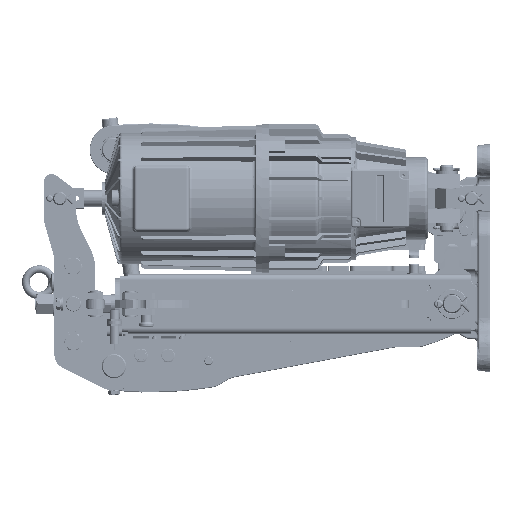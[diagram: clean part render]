
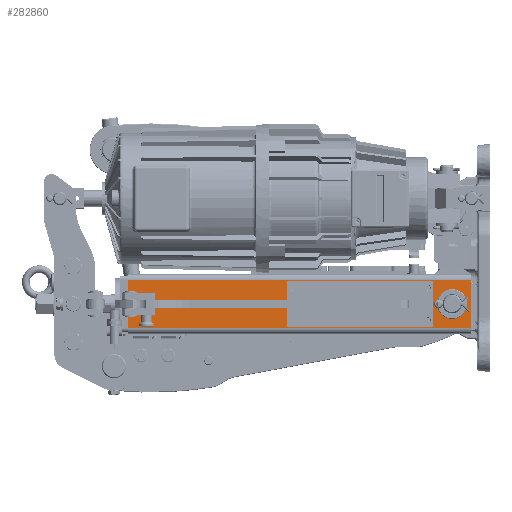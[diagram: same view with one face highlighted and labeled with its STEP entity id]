
A CAD part, left-side view. The second image highlights one B-rep face of the part: STEP entity #282860.
In plain terms, the highlighted planar face has unit normal (-1, 0, 0).
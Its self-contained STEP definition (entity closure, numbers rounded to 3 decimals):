
#114415=DIRECTION('',(0.,0.,-1.));
#114416=VECTOR('',#114415,90.);
#114417=CARTESIAN_POINT('',(-240.,35.,-40.));
#114418=LINE('',#114417,#114416);
#114422=DIRECTION('',(0.,-1.,0.));
#114423=VECTOR('',#114422,50.);
#114424=CARTESIAN_POINT('',(-240.,670.,-105.));
#114425=LINE('',#114424,#114423);
#114429=CARTESIAN_POINT('',(-240.,70.,-85.));
#114430=DIRECTION('',(-1.,0.,0.));
#114431=DIRECTION('',(0.,0.,-1.));
#114432=AXIS2_PLACEMENT_3D('',#114429,#114430,#114431);
#114437=CARTESIAN_POINT('',(-240.,70.,-85.));
#114438=DIRECTION('',(-1.,0.,0.));
#114439=DIRECTION('',(0.,0.,1.));
#114440=AXIS2_PLACEMENT_3D('',#114437,#114438,#114439);
#114445=DIRECTION('',(0.,0.,-1.));
#114446=VECTOR('',#114445,85.);
#114447=CARTESIAN_POINT('',(-240.,375.,-42.5));
#114448=LINE('',#114447,#114446);
#114452=DIRECTION('',(0.,-1.,0.));
#114453=VECTOR('',#114452,270.);
#114454=CARTESIAN_POINT('',(-240.,375.,-127.5));
#114455=LINE('',#114454,#114453);
#114459=DIRECTION('',(0.,0.,1.));
#114460=VECTOR('',#114459,85.);
#114461=CARTESIAN_POINT('',(-240.,105.,-127.5));
#114462=LINE('',#114461,#114460);
#114466=DIRECTION('',(0.,1.,0.));
#114467=VECTOR('',#114466,270.);
#114468=CARTESIAN_POINT('',(-240.,105.,-42.5));
#114469=LINE('',#114468,#114467);
#114487=DIRECTION('',(0.,-1.,0.));
#114488=VECTOR('',#114487,50.);
#114489=CARTESIAN_POINT('',(-240.,670.,-65.));
#114490=LINE('',#114489,#114488);
#114510=DIRECTION('',(0.,0.,-1.));
#114511=VECTOR('',#114510,40.);
#114512=CARTESIAN_POINT('',(-240.,620.,-65.));
#114513=LINE('',#114512,#114511);
#114678=DIRECTION('',(0.,0.,-1.));
#114679=VECTOR('',#114678,25.);
#114680=CARTESIAN_POINT('',(-240.,670.,-40.));
#114681=LINE('',#114680,#114679);
#114692=DIRECTION('',(0.,0.,-1.));
#114693=VECTOR('',#114692,25.);
#114694=CARTESIAN_POINT('',(-240.,670.,-105.));
#114695=LINE('',#114694,#114693);
#114888=DIRECTION('',(0.,-1.,0.));
#114889=VECTOR('',#114888,635.);
#114890=CARTESIAN_POINT('',(-240.,670.,-130.));
#114891=LINE('',#114890,#114889);
#114966=DIRECTION('',(0.,1.,0.));
#114967=VECTOR('',#114966,635.);
#114968=CARTESIAN_POINT('',(-240.,35.,-40.));
#114969=LINE('',#114968,#114967);
#167671=CARTESIAN_POINT('',(-240.,70.,-112.5));
#167672=CARTESIAN_POINT('',(-240.,70.,-57.5));
#167673=VERTEX_POINT('',#167671);
#167674=VERTEX_POINT('',#167672);
#167677=CARTESIAN_POINT('',(-240.,670.,-65.));
#167678=CARTESIAN_POINT('',(-240.,620.,-65.));
#167679=VERTEX_POINT('',#167677);
#167680=VERTEX_POINT('',#167678);
#167681=CARTESIAN_POINT('',(-240.,670.,-40.));
#167682=VERTEX_POINT('',#167681);
#167683=CARTESIAN_POINT('',(-240.,35.,-40.));
#167684=VERTEX_POINT('',#167683);
#167685=CARTESIAN_POINT('',(-240.,35.,-130.));
#167686=VERTEX_POINT('',#167685);
#167687=CARTESIAN_POINT('',(-240.,670.,-130.));
#167688=VERTEX_POINT('',#167687);
#167689=CARTESIAN_POINT('',(-240.,670.,-105.));
#167690=VERTEX_POINT('',#167689);
#167691=CARTESIAN_POINT('',(-240.,620.,-105.));
#167692=VERTEX_POINT('',#167691);
#167693=CARTESIAN_POINT('',(-240.,375.,-42.5));
#167694=CARTESIAN_POINT('',(-240.,375.,-127.5));
#167695=VERTEX_POINT('',#167693);
#167696=VERTEX_POINT('',#167694);
#167697=CARTESIAN_POINT('',(-240.,105.,-127.5));
#167698=VERTEX_POINT('',#167697);
#167699=CARTESIAN_POINT('',(-240.,105.,-42.5));
#167700=VERTEX_POINT('',#167699);
#282822=CARTESIAN_POINT('',(-240.,35.,-140.));
#282823=DIRECTION('',(-1.,0.,0.));
#282824=DIRECTION('',(0.,0.,1.));
#282825=AXIS2_PLACEMENT_3D('',#282822,#282823,#282824);
#282826=PLANE('',#282825);
#282828=ORIENTED_EDGE('',*,*,#282827,.F.);
#282830=ORIENTED_EDGE('',*,*,#282829,.F.);
#282832=ORIENTED_EDGE('',*,*,#282831,.F.);
#282834=ORIENTED_EDGE('',*,*,#282833,.T.);
#282836=ORIENTED_EDGE('',*,*,#282835,.F.);
#282838=ORIENTED_EDGE('',*,*,#282837,.F.);
#282840=ORIENTED_EDGE('',*,*,#282839,.T.);
#282842=ORIENTED_EDGE('',*,*,#282841,.F.);
#282843=EDGE_LOOP('',(#282828,#282830,#282832,#282834,#282836,#282838,#282840,
#282842));
#282844=FACE_OUTER_BOUND('',#282843,.F.);
#282845=ORIENTED_EDGE('',*,*,#282803,.T.);
#282847=ORIENTED_EDGE('',*,*,#282846,.T.);
#282848=EDGE_LOOP('',(#282845,#282847));
#282849=FACE_BOUND('',#282848,.F.);
#282851=ORIENTED_EDGE('',*,*,#282850,.T.);
#282853=ORIENTED_EDGE('',*,*,#282852,.T.);
#282855=ORIENTED_EDGE('',*,*,#282854,.T.);
#282857=ORIENTED_EDGE('',*,*,#282856,.T.);
#282858=EDGE_LOOP('',(#282851,#282853,#282855,#282857));
#282859=FACE_BOUND('',#282858,.F.);
#282860=ADVANCED_FACE('',(#282844,#282849,#282859),#282826,.T.);
#114433=CIRCLE('',#114432,27.5);
#114441=CIRCLE('',#114440,27.5);
#282803=EDGE_CURVE('',#167673,#167674,#114433,.T.);
#282827=EDGE_CURVE('',#167679,#167680,#114490,.T.);
#282829=EDGE_CURVE('',#167682,#167679,#114681,.T.);
#282831=EDGE_CURVE('',#167684,#167682,#114969,.T.);
#282833=EDGE_CURVE('',#167684,#167686,#114418,.T.);
#282835=EDGE_CURVE('',#167688,#167686,#114891,.T.);
#282837=EDGE_CURVE('',#167690,#167688,#114695,.T.);
#282839=EDGE_CURVE('',#167690,#167692,#114425,.T.);
#282841=EDGE_CURVE('',#167680,#167692,#114513,.T.);
#282846=EDGE_CURVE('',#167674,#167673,#114441,.T.);
#282850=EDGE_CURVE('',#167695,#167696,#114448,.T.);
#282852=EDGE_CURVE('',#167696,#167698,#114455,.T.);
#282854=EDGE_CURVE('',#167698,#167700,#114462,.T.);
#282856=EDGE_CURVE('',#167700,#167695,#114469,.T.);
